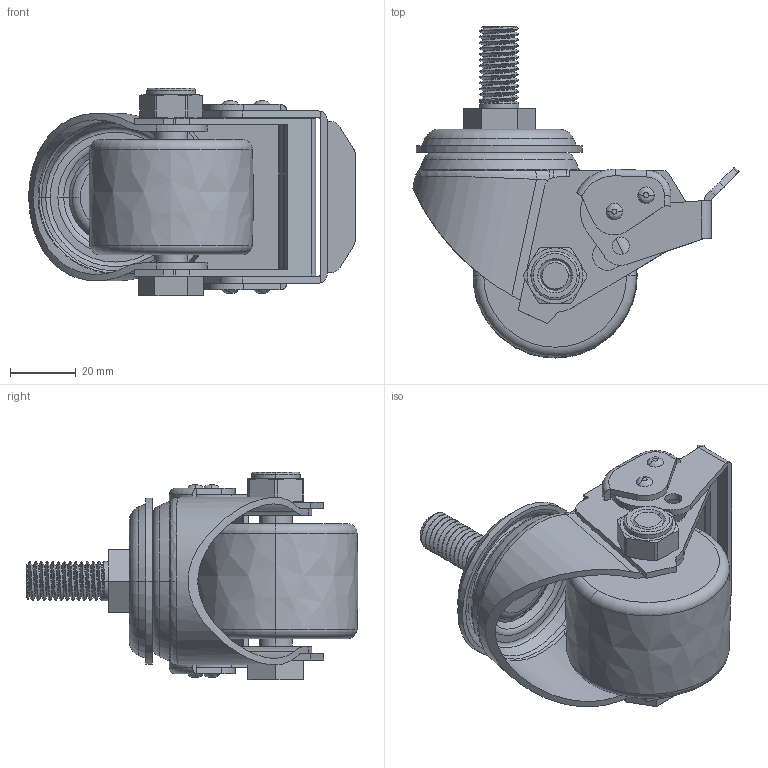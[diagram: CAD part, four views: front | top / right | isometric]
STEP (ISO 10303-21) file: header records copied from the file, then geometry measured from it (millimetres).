
FILE_DESCRIPTION((''),'2;1');
FILE_NAME('M41342_ASM','2022-01-18T',('lenovo'),(''),'PRO/ENGINEER BY PARAMETRIC TECHNOLOGY CORPORATION, 2010280','PRO/ENGINEER BY PARAMETRIC TECHNOLOGY CORPORATION, 2010280','');
FILE_SCHEMA(('CONFIG_CONTROL_DESIGN'));
Length unit declared in the file: millimetre
Products named in the file (11): M41350-311; M4130-211; 360-23-M12X25; M412-16; M41350-535; M41350-531; M4130-461; M4130-462; M410-20-M10X57; 630-34; M41342_ASM
Assembly tree (10 placements, depth 2):
  M41342_ASM
    M41350-311
    M4130-211
    360-23-M12X25
    M412-16
    M41350-535
    M41350-531
    M4130-461
    M4130-462
    M410-20-M10X57
    630-34
Bounding box: 99.27 x 100.97 x 63.11 mm (x, y, z)
Volume: 108928.8 mm3; surface area: 51918.2 mm2
Topology: 10 solids, 10 shells, 379 faces, 949 edges, 600 vertices
Faces by surface type: cylinder 141, plane 119, bspline 49, cone 39, torus 29, sphere 2
Entity records: 17940 total; most frequent: CARTESIAN_POINT 8790, ORIENTED_EDGE 1898, DIRECTION 1849, EDGE_CURVE 949, AXIS2_PLACEMENT_3D 722, VERTEX_POINT 600, EDGE_LOOP 421, VECTOR 405
